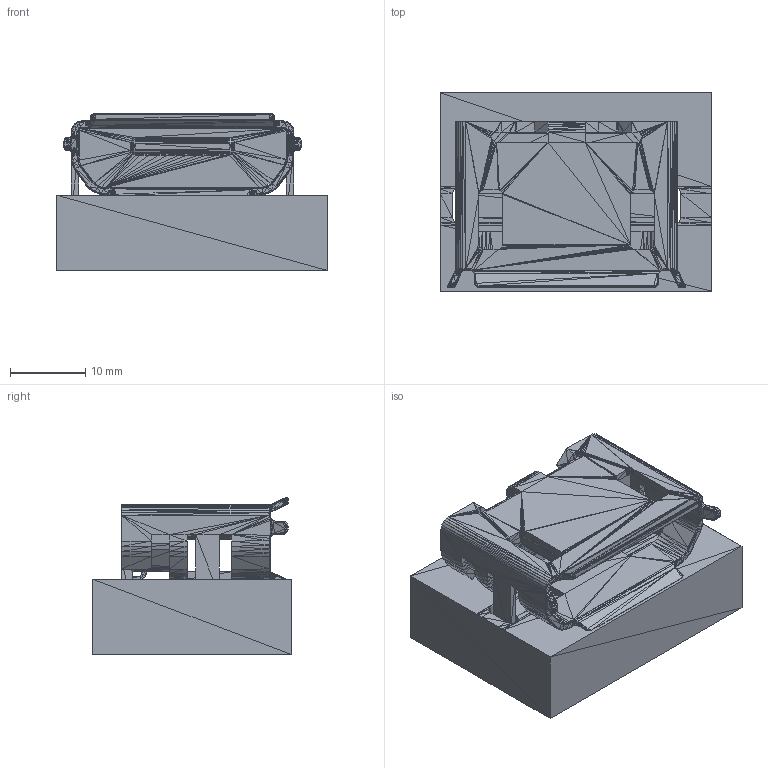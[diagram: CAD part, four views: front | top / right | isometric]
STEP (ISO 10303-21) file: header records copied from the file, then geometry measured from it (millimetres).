
FILE_DESCRIPTION((''),'2;1');
FILE_NAME('OBJ_MICRO-USB-SMD_5P-P0.65-H-F_C10418', '2025-06-01T17:50:55', (''), (''), 'ImageToStl.com STEP Converter','', '');
FILE_SCHEMA(('AUTOMOTIVE_DESIGN_CC2'));
Length unit declared in the file: metre
Products named in the file (4534): product0; product1; product2; product3; product4; product5; product6; product7; product8; product9; product10; product11; product12; product13; product14; product15; product16; product17; product18; product19; product20; product21; product22; product23; product24; product25; product26; product27; product28; product29; product30; product31; product32; product33; product34; product35; product36; product37; product38; product39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
Bounding box: 35.96 x 26.29 x 20.83 mm (x, y, z)
Surface area: 7366.4 mm2 (no closed solid volume)
Topology: 0 solids, 5148 shells, 5148 faces, 15372 edges, 14323 vertices
Faces by surface type: plane 5148
Entity records: 182835 total; most frequent: DIRECTION 25742, ORIENTED_EDGE 15444, EDGE_CURVE 15444, LINE 15444, VECTOR 15444, CARTESIAN_POINT 14378, VERTEX_POINT 14377, AXIS2_PLACEMENT_3D 5149
